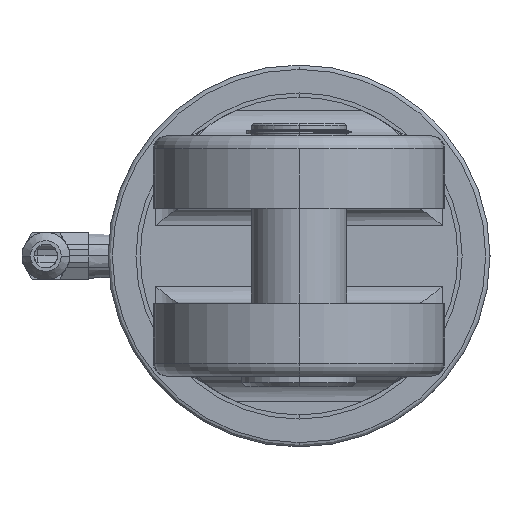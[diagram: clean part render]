
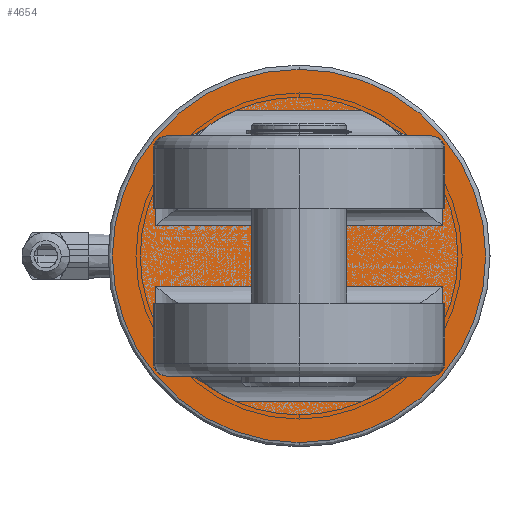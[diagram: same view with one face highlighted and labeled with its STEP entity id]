
A CAD part, left-side view. The second image highlights one B-rep face of the part: STEP entity #4654.
In plain terms, the highlighted planar face has unit normal (-1, 0, 0).
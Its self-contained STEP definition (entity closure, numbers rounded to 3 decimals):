
#189 = DIRECTION ( 'NONE',  ( 0., 0., -1. ) ) ;
#255 = CARTESIAN_POINT ( 'NONE',  ( -1477.5, 0., 0. ) ) ;
#293 = CARTESIAN_POINT ( 'NONE',  ( -1477.5, 0., -43.5 ) ) ;
#313 = VERTEX_POINT ( 'NONE', #6486 ) ;
#368 = AXIS2_PLACEMENT_3D ( 'NONE', #1936, #6639, #2623 ) ;
#845 = DIRECTION ( 'NONE',  ( 1., 0., 0. ) ) ;
#1177 = ORIENTED_EDGE ( 'NONE', *, *, #6277, .F. ) ;
#1215 = ORIENTED_EDGE ( 'NONE', *, *, #5392, .F. ) ;
#1279 = DIRECTION ( 'NONE',  ( 0., 0., -1. ) ) ;
#1848 = FACE_OUTER_BOUND ( 'NONE', #8898, .T. ) ;
#1936 = CARTESIAN_POINT ( 'NONE',  ( -1477.5, 43.5, 0. ) ) ;
#2623 = DIRECTION ( 'NONE',  ( 0., 0., 1. ) ) ;
#3262 = CARTESIAN_POINT ( 'NONE',  ( -1477.5, 0., 0. ) ) ;
#3410 = AXIS2_PLACEMENT_3D ( 'NONE', #3262, #8155, #1279 ) ;
#4531 = PLANE ( 'NONE',  #368 ) ;
#4654 = ADVANCED_FACE ( 'NONE', ( #1848 ), #4531, .T. ) ;
#5295 = CIRCLE ( 'NONE', #3410, 43.5 ) ;
#5392 = EDGE_CURVE ( 'NONE', #313, #6990, #7792, .T. ) ;
#6072 = AXIS2_PLACEMENT_3D ( 'NONE', #255, #845, #189 ) ;
#6277 = EDGE_CURVE ( 'NONE', #6990, #313, #5295, .T. ) ;
#6486 = CARTESIAN_POINT ( 'NONE',  ( -1477.5, 0., 43.5 ) ) ;
#6639 = DIRECTION ( 'NONE',  ( -1., 0., 0. ) ) ;
#6990 = VERTEX_POINT ( 'NONE', #293 ) ;
#7792 = CIRCLE ( 'NONE', #6072, 43.5 ) ;
#8155 = DIRECTION ( 'NONE',  ( 1., 0., 0. ) ) ;
#8898 = EDGE_LOOP ( 'NONE', ( #1177, #1215 ) ) ;
